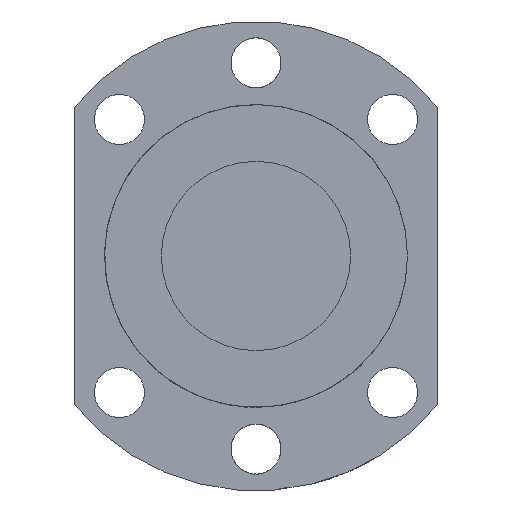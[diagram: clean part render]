
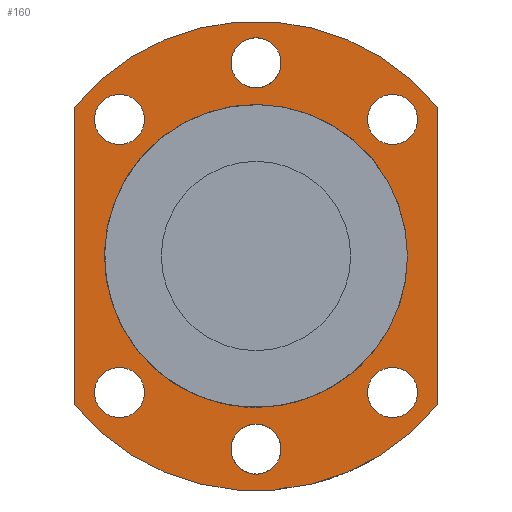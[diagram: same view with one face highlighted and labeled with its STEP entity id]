
A CAD part, front view. The second image highlights one B-rep face of the part: STEP entity #160.
In plain terms, the highlighted planar face has unit normal (0, -1, 0).
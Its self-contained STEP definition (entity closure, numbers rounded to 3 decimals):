
#98=LINE('',#839,#108);
#102=LINE('',#910,#112);
#108=VECTOR('',#667,1.);
#112=VECTOR('',#679,1.);
#135=PLANE('',#594);
#160=ADVANCED_FACE('',(#220,#221,#222,#223,#224,#225,#226,#227),#135,.F.);
#220=FACE_BOUND('',#289,.T.);
#221=FACE_BOUND('',#290,.T.);
#222=FACE_BOUND('',#291,.T.);
#223=FACE_BOUND('',#292,.T.);
#224=FACE_BOUND('',#293,.T.);
#225=FACE_BOUND('',#294,.T.);
#226=FACE_BOUND('',#295,.T.);
#227=FACE_BOUND('',#296,.T.);
#289=EDGE_LOOP('',(#375));
#290=EDGE_LOOP('',(#376));
#291=EDGE_LOOP('',(#377));
#292=EDGE_LOOP('',(#378));
#293=EDGE_LOOP('',(#379));
#294=EDGE_LOOP('',(#380));
#295=EDGE_LOOP('',(#381));
#296=EDGE_LOOP('',(#382,#383,#384,#385));
#375=ORIENTED_EDGE('',*,*,#499,.F.);
#376=ORIENTED_EDGE('',*,*,#500,.F.);
#377=ORIENTED_EDGE('',*,*,#501,.F.);
#378=ORIENTED_EDGE('',*,*,#502,.T.);
#379=ORIENTED_EDGE('',*,*,#503,.T.);
#380=ORIENTED_EDGE('',*,*,#504,.T.);
#381=ORIENTED_EDGE('',*,*,#505,.T.);
#382=ORIENTED_EDGE('',*,*,#479,.F.);
#383=ORIENTED_EDGE('',*,*,#490,.F.);
#384=ORIENTED_EDGE('',*,*,#487,.F.);
#385=ORIENTED_EDGE('',*,*,#483,.F.);
#437=VERTEX_POINT('',#831);
#438=VERTEX_POINT('',#832);
#441=VERTEX_POINT('',#840);
#444=VERTEX_POINT('',#905);
#453=VERTEX_POINT('',#929);
#454=VERTEX_POINT('',#931);
#455=VERTEX_POINT('',#933);
#456=VERTEX_POINT('',#935);
#457=VERTEX_POINT('',#937);
#458=VERTEX_POINT('',#939);
#459=VERTEX_POINT('',#941);
#479=EDGE_CURVE('',#437,#438,#526,.T.);
#483=EDGE_CURVE('',#438,#441,#98,.T.);
#487=EDGE_CURVE('',#441,#444,#528,.T.);
#490=EDGE_CURVE('',#444,#437,#102,.T.);
#499=EDGE_CURVE('',#453,#453,#537,.T.);
#500=EDGE_CURVE('',#454,#454,#538,.T.);
#501=EDGE_CURVE('',#455,#455,#539,.T.);
#502=EDGE_CURVE('',#456,#456,#540,.T.);
#503=EDGE_CURVE('',#457,#457,#541,.T.);
#504=EDGE_CURVE('',#458,#458,#542,.T.);
#505=EDGE_CURVE('',#459,#459,#543,.T.);
#526=CIRCLE('',#571,31.);
#528=CIRCLE('',#575,31.);
#537=CIRCLE('',#587,3.3);
#538=CIRCLE('',#588,3.3);
#539=CIRCLE('',#589,3.3);
#540=CIRCLE('',#590,3.3);
#541=CIRCLE('',#591,3.3);
#542=CIRCLE('',#592,3.3);
#543=CIRCLE('',#593,20.);
#571=AXIS2_PLACEMENT_3D('',#830,#659,#660);
#575=AXIS2_PLACEMENT_3D('',#904,#672,#673);
#587=AXIS2_PLACEMENT_3D('',#928,#699,#700);
#588=AXIS2_PLACEMENT_3D('',#930,#701,#702);
#589=AXIS2_PLACEMENT_3D('',#932,#703,#704);
#590=AXIS2_PLACEMENT_3D('',#934,#705,#706);
#591=AXIS2_PLACEMENT_3D('',#936,#707,#708);
#592=AXIS2_PLACEMENT_3D('',#938,#709,#710);
#593=AXIS2_PLACEMENT_3D('',#940,#711,#712);
#594=AXIS2_PLACEMENT_3D('',#942,#713,#714);
#659=DIRECTION('',(0.,1.,0.));
#660=DIRECTION('',(1.,0.,0.));
#667=DIRECTION('',(0.,0.,-1.));
#672=DIRECTION('',(0.,1.,0.));
#673=DIRECTION('',(1.,0.,0.));
#679=DIRECTION('',(0.,0.,1.));
#699=DIRECTION('',(0.,-1.,0.));
#700=DIRECTION('',(-1.,0.,0.));
#701=DIRECTION('',(0.,-1.,0.));
#702=DIRECTION('',(-0.707,0.,-0.707));
#703=DIRECTION('',(0.,-1.,0.));
#704=DIRECTION('',(0.,0.,-1.));
#705=DIRECTION('',(0.,1.,0.));
#706=DIRECTION('',(-1.,0.,0.));
#707=DIRECTION('',(0.,1.,0.));
#708=DIRECTION('',(-0.707,0.,0.707));
#709=DIRECTION('',(0.,1.,0.));
#710=DIRECTION('',(0.,0.,1.));
#711=DIRECTION('',(0.,1.,0.));
#712=DIRECTION('',(1.,0.,0.));
#713=DIRECTION('',(0.,1.,0.));
#714=DIRECTION('',(0.,0.,1.));
#830=CARTESIAN_POINT('',(0.,-25.5,0.));
#831=CARTESIAN_POINT('',(-24.,-25.5,19.621));
#832=CARTESIAN_POINT('',(24.,-25.5,19.621));
#839=CARTESIAN_POINT('',(24.,-25.5,19.621));
#840=CARTESIAN_POINT('',(24.,-25.5,-19.621));
#904=CARTESIAN_POINT('',(0.,-25.5,0.));
#905=CARTESIAN_POINT('',(-24.,-25.5,-19.621));
#910=CARTESIAN_POINT('',(-24.,-25.5,-19.621));
#928=CARTESIAN_POINT('',(18.031,-25.5,18.031));
#929=CARTESIAN_POINT('',(14.731,-25.5,18.031));
#930=CARTESIAN_POINT('',(0.,-25.5,25.5));
#931=CARTESIAN_POINT('',(-2.333,-25.5,23.167));
#932=CARTESIAN_POINT('',(-18.031,-25.5,18.031));
#933=CARTESIAN_POINT('',(-18.031,-25.5,14.731));
#934=CARTESIAN_POINT('',(18.031,-25.5,-18.031));
#935=CARTESIAN_POINT('',(14.731,-25.5,-18.031));
#936=CARTESIAN_POINT('',(0.,-25.5,-25.5));
#937=CARTESIAN_POINT('',(-2.333,-25.5,-23.167));
#938=CARTESIAN_POINT('',(-18.031,-25.5,-18.031));
#939=CARTESIAN_POINT('',(-18.031,-25.5,-14.731));
#940=CARTESIAN_POINT('',(0.,-25.5,0.));
#941=CARTESIAN_POINT('',(20.,-25.5,0.));
#942=CARTESIAN_POINT('',(0.,-25.5,0.));
